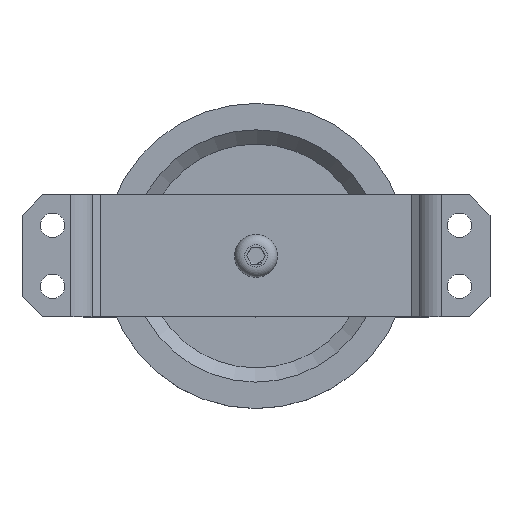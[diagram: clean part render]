
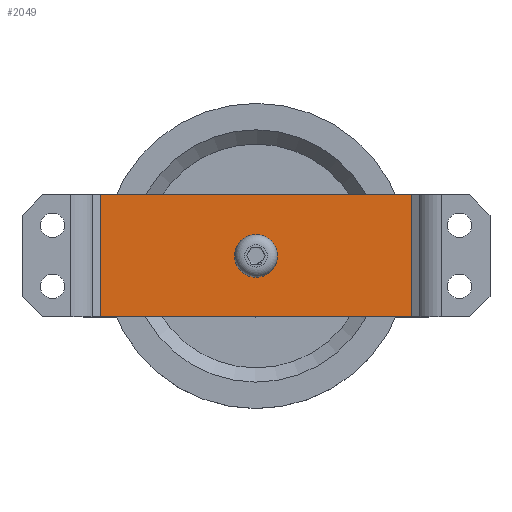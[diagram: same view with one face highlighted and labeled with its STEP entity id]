
A CAD part, top view. The second image highlights one B-rep face of the part: STEP entity #2049.
In plain terms, the highlighted planar face has unit normal (0, 0, 1).
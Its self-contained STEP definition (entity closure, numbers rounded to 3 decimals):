
#87=FACE_BOUND('',#479,.T.);
#185=CIRCLE('',#2354,6.5);
#346=FACE_OUTER_BOUND('',#478,.T.);
#478=EDGE_LOOP('',(#1636,#1637,#1638,#1639));
#479=EDGE_LOOP('',(#1640));
#650=LINE('',#3482,#810);
#654=LINE('',#3490,#814);
#657=LINE('',#3496,#817);
#660=LINE('',#3501,#820);
#810=VECTOR('',#2832,10.);
#814=VECTOR('',#2838,10.);
#817=VECTOR('',#2843,10.);
#820=VECTOR('',#2848,10.);
#946=VERTEX_POINT('',#3474);
#948=VERTEX_POINT('',#3480);
#949=VERTEX_POINT('',#3481);
#952=VERTEX_POINT('',#3489);
#954=VERTEX_POINT('',#3495);
#1189=EDGE_CURVE('',#946,#946,#185,.T.);
#1192=EDGE_CURVE('',#948,#949,#650,.T.);
#1196=EDGE_CURVE('',#949,#952,#654,.T.);
#1199=EDGE_CURVE('',#952,#954,#657,.T.);
#1202=EDGE_CURVE('',#954,#948,#660,.T.);
#1636=ORIENTED_EDGE('',*,*,#1192,.F.);
#1637=ORIENTED_EDGE('',*,*,#1202,.F.);
#1638=ORIENTED_EDGE('',*,*,#1199,.F.);
#1639=ORIENTED_EDGE('',*,*,#1196,.F.);
#1640=ORIENTED_EDGE('',*,*,#1189,.T.);
#1954=PLANE('',#2360);
#2049=ADVANCED_FACE('',(#346,#87),#1954,.T.);
#2354=AXIS2_PLACEMENT_3D('',#3475,#2825,#2826);
#2360=AXIS2_PLACEMENT_3D('',#3503,#2850,#2851);
#2825=DIRECTION('center_axis',(0.,0.,-1.));
#2826=DIRECTION('ref_axis',(-1.,0.,0.));
#2832=DIRECTION('',(0.,-1.,0.));
#2838=DIRECTION('',(-1.,0.,0.));
#2843=DIRECTION('',(0.,1.,0.));
#2848=DIRECTION('',(1.,0.,0.));
#2850=DIRECTION('center_axis',(0.,0.,1.));
#2851=DIRECTION('ref_axis',(1.,0.,0.));
#3474=CARTESIAN_POINT('',(6.5,0.,6.));
#3475=CARTESIAN_POINT('Origin',(0.,0.,6.));
#3480=CARTESIAN_POINT('',(78.5,30.,6.));
#3481=CARTESIAN_POINT('',(78.5,-30.,6.));
#3482=CARTESIAN_POINT('',(78.5,30.,6.));
#3489=CARTESIAN_POINT('',(-78.5,-30.,6.));
#3490=CARTESIAN_POINT('',(78.5,-30.,6.));
#3495=CARTESIAN_POINT('',(-78.5,30.,6.));
#3496=CARTESIAN_POINT('',(-78.5,-30.,6.));
#3501=CARTESIAN_POINT('',(-78.5,30.,6.));
#3503=CARTESIAN_POINT('Origin',(0.,0.,6.));
